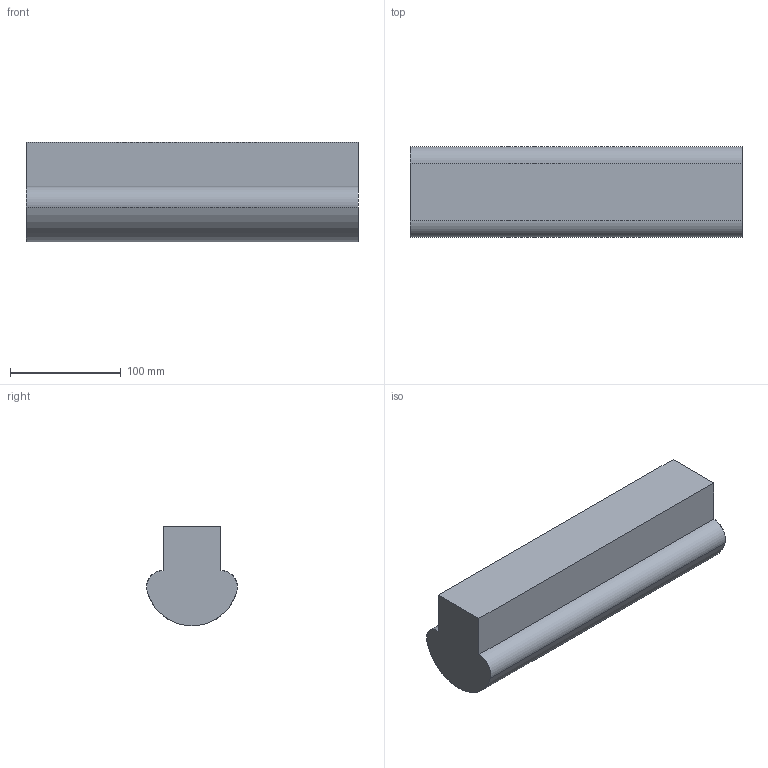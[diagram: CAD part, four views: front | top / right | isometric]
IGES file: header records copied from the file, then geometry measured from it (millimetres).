
Start section: SolidWorks IGES file using analytic representation for surfaces
Global section: file name: C:\Users\danielet\Desktop\3D CARLOS\AKA-A2024-3D\AKA-A2024-3D.IGS; native system: SolidWorks 2018; preprocessor: SolidWorks 2018; author: danielet; date: 220104.124600; units: millimetre
Bounding box: 300 x 81.99 x 90 mm (x, y, z)
Surface area: 99829.6 mm2 (no closed solid volume)
Topology: 0 solids, 0 shells, 8 faces, 158 edges, 158 vertices
Faces by surface type: bspline 5, revolution 3
